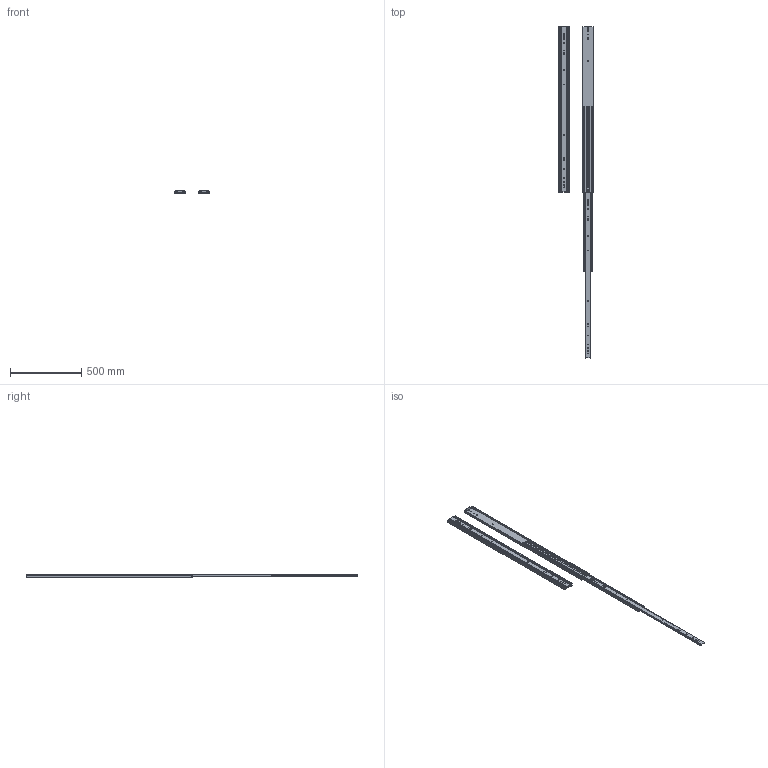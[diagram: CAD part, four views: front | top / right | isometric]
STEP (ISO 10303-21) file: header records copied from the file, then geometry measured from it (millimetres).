
FILE_DESCRIPTION((''),'2;1');
FILE_NAME('ASSEM1_1_2_3_4_5_6_7_8_9_10__19_ASM','2026-04-08T09:00:47',('T260078'),(''),'CREO PARAMETRIC BY PTC INC, 2025123','CREO PARAMETRIC BY PTC INC, 2025123','');
FILE_SCHEMA(('CONFIG_CONTROL_DESIGN','SHAPE_APPEARANCE_LAYERS_GROUPS'));
Length unit declared in the file: millimetre
Products named in the file (6): 76J01-46_X2_540B_X0_-M; 76J01-46_X2_540B_X0_-I; 76J01-46_X2_540B_X0_-O; 76J01-46_X2_540_X0__ASM; 76J01-46_X2_540B_X0_-_X2_5C5595_ASM; ASSEM1_1_2_3_4_5_6_7_8_9_10__19_ASM
Assembly tree (8 placements, depth 3):
  ASSEM1_1_2_3_4_5_6_7_8_9_10__19_ASM
    76J01-46_X2_540_X0__ASM
      76J01-46_X2_540B_X0_-M
      76J01-46_X2_540B_X0_-I
      76J01-46_X2_540B_X0_-O
    76J01-46_X2_540B_X0_-_X2_5C5595_ASM
      76J01-46_X2_540B_X0_-M
      76J01-46_X2_540B_X0_-I
      76J01-46_X2_540B_X0_-O
Bounding box: 245.44 x 2336.8 x 19.3 mm (x, y, z)
Volume: 1445077.9 mm3; surface area: 1288254.2 mm2
Topology: 6 solids, 6 shells, 380 faces, 1228 edges, 848 vertices
Faces by surface type: cylinder 212, plane 168
Entity records: 8398 total; most frequent: CARTESIAN_POINT 1344, DIRECTION 1243, ORIENTED_EDGE 1228, EDGE_CURVE 614, AXIS2_PLACEMENT_3D 443, VERTEX_POINT 424, VECTOR 357, LINE 357
